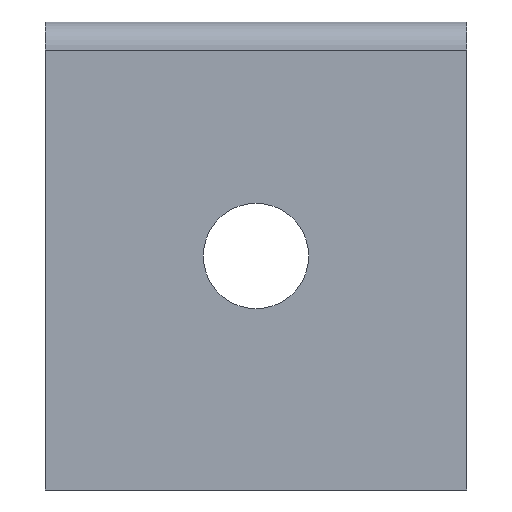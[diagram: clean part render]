
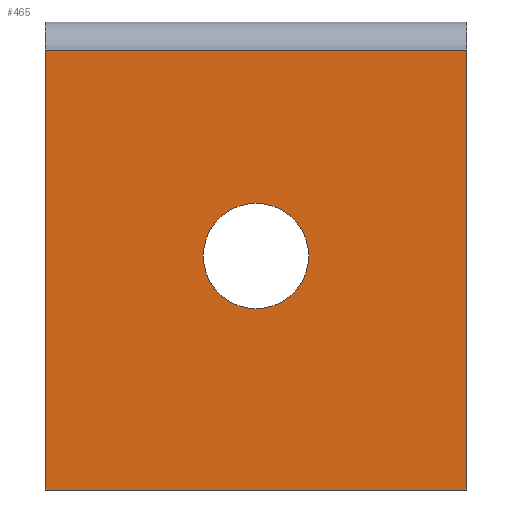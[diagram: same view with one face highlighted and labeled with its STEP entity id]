
A CAD part, front view. The second image highlights one B-rep face of the part: STEP entity #465.
In plain terms, the highlighted planar face has unit normal (0, -1, 0).
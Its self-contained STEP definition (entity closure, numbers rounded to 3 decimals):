
#5 = CARTESIAN_POINT ( 'NONE',  ( -9., 0., 18.8 ) ) ;
#21 = PLANE ( 'NONE',  #313 ) ;
#26 = ORIENTED_EDGE ( 'NONE', *, *, #489, .F. ) ;
#55 = VECTOR ( 'NONE', #123, 1000. ) ;
#61 = CARTESIAN_POINT ( 'NONE',  ( 9., 0., 0. ) ) ;
#99 = CARTESIAN_POINT ( 'NONE',  ( -9., 0., 0. ) ) ;
#110 = CARTESIAN_POINT ( 'NONE',  ( -9., 0., 18.8 ) ) ;
#113 = CARTESIAN_POINT ( 'NONE',  ( 0., 0., 10. ) ) ;
#115 = DIRECTION ( 'NONE',  ( -1., 0., 0. ) ) ;
#119 = CARTESIAN_POINT ( 'NONE',  ( 0., 0., 10. ) ) ;
#123 = DIRECTION ( 'NONE',  ( 0., 0., -1. ) ) ;
#167 = CARTESIAN_POINT ( 'NONE',  ( 9., 0., 18.8 ) ) ;
#172 = DIRECTION ( 'NONE',  ( 0., 0., 1. ) ) ;
#176 = DIRECTION ( 'NONE',  ( 0., 0., 1. ) ) ;
#179 = VECTOR ( 'NONE', #115, 1000. ) ;
#184 = EDGE_CURVE ( 'NONE', #207, #388, #417, .T. ) ;
#187 = LINE ( 'NONE', #418, #426 ) ;
#196 = ORIENTED_EDGE ( 'NONE', *, *, #270, .T. ) ;
#198 = ORIENTED_EDGE ( 'NONE', *, *, #363, .T. ) ;
#203 = CARTESIAN_POINT ( 'NONE',  ( 9., 0., 18.8 ) ) ;
#207 = VERTEX_POINT ( 'NONE', #456 ) ;
#208 = VECTOR ( 'NONE', #310, 1000. ) ;
#210 = FACE_OUTER_BOUND ( 'NONE', #468, .T. ) ;
#212 = VERTEX_POINT ( 'NONE', #110 ) ;
#219 = DIRECTION ( 'NONE',  ( 0., 1., 0. ) ) ;
#224 = EDGE_CURVE ( 'NONE', #388, #207, #474, .T. ) ;
#257 = VERTEX_POINT ( 'NONE', #379 ) ;
#263 = ORIENTED_EDGE ( 'NONE', *, *, #224, .T. ) ;
#270 = EDGE_CURVE ( 'NONE', #212, #387, #460, .T. ) ;
#271 = DIRECTION ( 'NONE',  ( 0., 1., 0. ) ) ;
#285 = LINE ( 'NONE', #203, #208 ) ;
#290 = ORIENTED_EDGE ( 'NONE', *, *, #338, .F. ) ;
#293 = CARTESIAN_POINT ( 'NONE',  ( 0., 0., 7.75 ) ) ;
#298 = FACE_BOUND ( 'NONE', #472, .T. ) ;
#310 = DIRECTION ( 'NONE',  ( -1., 0., 0. ) ) ;
#313 = AXIS2_PLACEMENT_3D ( 'NONE', #167, #219, #176 ) ;
#317 = ORIENTED_EDGE ( 'NONE', *, *, #184, .T. ) ;
#333 = DIRECTION ( 'NONE',  ( 0., 0., 1. ) ) ;
#338 = EDGE_CURVE ( 'NONE', #257, #475, #187, .T. ) ;
#363 = EDGE_CURVE ( 'NONE', #257, #212, #285, .T. ) ;
#378 = AXIS2_PLACEMENT_3D ( 'NONE', #113, #412, #333 ) ;
#379 = CARTESIAN_POINT ( 'NONE',  ( 9., 0., 18.8 ) ) ;
#380 = DIRECTION ( 'NONE',  ( 0., 0., -1. ) ) ;
#387 = VERTEX_POINT ( 'NONE', #99 ) ;
#388 = VERTEX_POINT ( 'NONE', #293 ) ;
#412 = DIRECTION ( 'NONE',  ( 0., 1., 0. ) ) ;
#417 = CIRCLE ( 'NONE', #466, 2.25 ) ;
#418 = CARTESIAN_POINT ( 'NONE',  ( 9., 0., 18.8 ) ) ;
#426 = VECTOR ( 'NONE', #380, 1000. ) ;
#450 = LINE ( 'NONE', #483, #179 ) ;
#456 = CARTESIAN_POINT ( 'NONE',  ( 0., 0., 12.25 ) ) ;
#460 = LINE ( 'NONE', #5, #55 ) ;
#465 = ADVANCED_FACE ( 'NONE', ( #298, #210 ), #21, .F. ) ;
#466 = AXIS2_PLACEMENT_3D ( 'NONE', #119, #271, #172 ) ;
#468 = EDGE_LOOP ( 'NONE', ( #196, #26, #290, #198 ) ) ;
#472 = EDGE_LOOP ( 'NONE', ( #317, #263 ) ) ;
#474 = CIRCLE ( 'NONE', #378, 2.25 ) ;
#475 = VERTEX_POINT ( 'NONE', #61 ) ;
#483 = CARTESIAN_POINT ( 'NONE',  ( 9., 0., 0. ) ) ;
#489 = EDGE_CURVE ( 'NONE', #475, #387, #450, .T. ) ;
